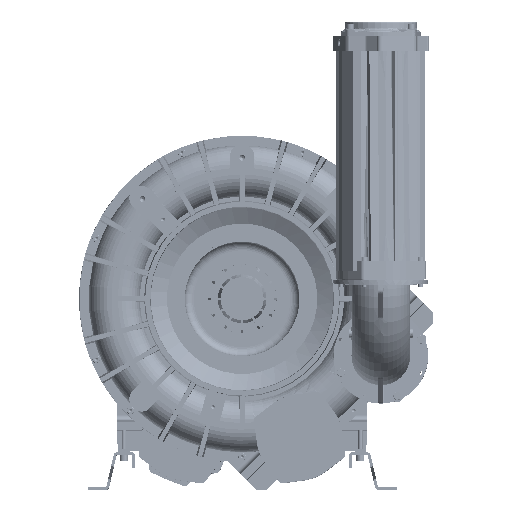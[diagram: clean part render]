
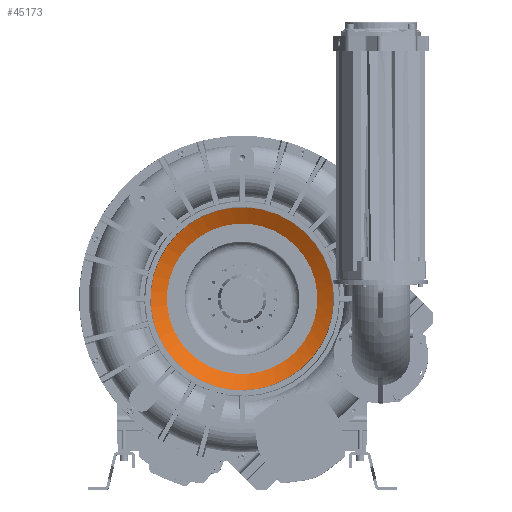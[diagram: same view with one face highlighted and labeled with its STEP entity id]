
A CAD part, top view. The second image highlights one B-rep face of the part: STEP entity #45173.
In plain terms, the highlighted conical face has half-angle 62 degrees and reference radius 131.023 mm.
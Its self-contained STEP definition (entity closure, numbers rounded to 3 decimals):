
#35757 = CIRCLE ( 'NONE', #115623, 131.023 ) ;
#39392 = AXIS2_PLACEMENT_3D ( 'NONE', #149421, #171294, #122952 ) ;
#45173 = ADVANCED_FACE ( 'NONE', ( #196256, #168248 ), #308908, .F. ) ;
#55964 = CARTESIAN_POINT ( 'NONE',  ( 0., 0., 472.491 ) ) ;
#72295 = EDGE_LOOP ( 'NONE', ( #129168 ) ) ;
#96602 = CARTESIAN_POINT ( 'NONE',  ( 0., 0., 457.5 ) ) ;
#99046 = CARTESIAN_POINT ( 'NONE',  ( -92.648, -92.648, 457.5 ) ) ;
#115623 = AXIS2_PLACEMENT_3D ( 'NONE', #96602, #284213, #188787 ) ;
#122952 = DIRECTION ( 'NONE',  ( 0.707, 0.707, 0. ) ) ;
#129168 = ORIENTED_EDGE ( 'NONE', *, *, #244763, .F. ) ;
#129363 = DIRECTION ( 'NONE',  ( -0.707, -0.707, 0. ) ) ;
#149421 = CARTESIAN_POINT ( 'NONE',  ( 0., 0., 457.5 ) ) ;
#168248 = FACE_BOUND ( 'NONE', #271523, .T. ) ;
#171294 = DIRECTION ( 'NONE',  ( 0., 0., 1. ) ) ;
#182973 = AXIS2_PLACEMENT_3D ( 'NONE', #55964, #221507, #129363 ) ;
#188787 = DIRECTION ( 'NONE',  ( -0.707, -0.707, 0. ) ) ;
#196256 = FACE_OUTER_BOUND ( 'NONE', #72295, .T. ) ;
#221507 = DIRECTION ( 'NONE',  ( 0., 0., -1. ) ) ;
#232955 = CIRCLE ( 'NONE', #182973, 159.217 ) ;
#244763 = EDGE_CURVE ( 'NONE', #273214, #273214, #232955, .T. ) ;
#246604 = CARTESIAN_POINT ( 'NONE',  ( -112.584, -112.584, 472.491 ) ) ;
#247133 = ORIENTED_EDGE ( 'NONE', *, *, #253006, .F. ) ;
#253006 = EDGE_CURVE ( 'NONE', #263227, #263227, #35757, .T. ) ;
#263227 = VERTEX_POINT ( 'NONE', #99046 ) ;
#271523 = EDGE_LOOP ( 'NONE', ( #247133 ) ) ;
#273214 = VERTEX_POINT ( 'NONE', #246604 ) ;
#284213 = DIRECTION ( 'NONE',  ( 0., 0., 1. ) ) ;
#308908 = CONICAL_SURFACE ( 'NONE', #39392, 131.023, 1.082 ) ;
